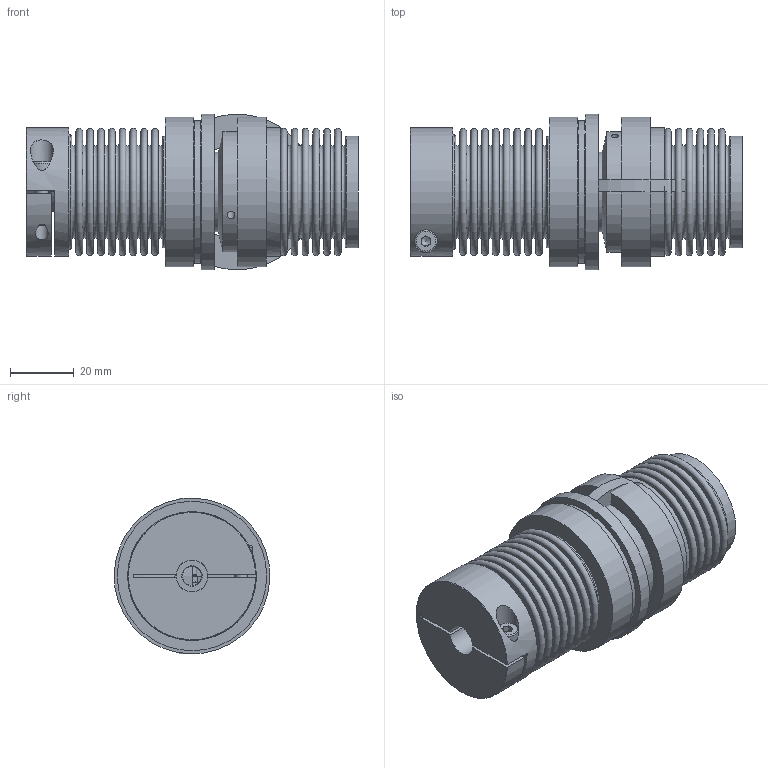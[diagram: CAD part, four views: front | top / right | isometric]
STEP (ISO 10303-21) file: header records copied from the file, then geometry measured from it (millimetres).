
FILE_DESCRIPTION( ( 'Unknown' ), '1' );
FILE_NAME( 'C:/Dokumente und Einstellungen/SKarpstein/Desktop/Korrigierte 3D Modelle/KBK-BKI-10-75.stp', 'Unknown', ( 'Unknown' ), ( 'Unknown' ), 'XStep 1.0', 'Unknown', ' ' );
FILE_SCHEMA( ( 'automotive_design' ) );
Length unit declared in the file: millimetre
Products named in the file (10): Assem1; Stellring 10; Druckring 10; KBK L-I-10 Grundkörper; din_en_24017_m3x12; Konusbuchse KBK 10; Flansch BK10; BL100_Standard_0; KN10_Standard_D10; Socket Head Cap Screw_DIN_DIN 912 M4 x 16 --- 16N_4
Bounding box: 104.43 x 48.99 x 49 mm (x, y, z)
Volume: 102922.4 mm3; surface area: 104395.4 mm2
Topology: 21 solids, 21 shells, 516 faces, 1042 edges, 665 vertices
Faces by surface type: plane 259, cylinder 96, torus 89, cone 72
Full cylindrical faces by diameter (mm): 2.459 x16, 3 x5, 3.1 x8, 4 x4, 4.2 x2, 4.57 x5, 6 x4, 7 x2, 7.2 x2, 10 x2, 16 x2, 19 x2, 20 x4, 24 x4, 25 x4, 26 x2, 29.993 x2, 32 x2, 34.343 x2, 35.143 x2, 35.2 x2, 36 x2, 38 x2, 40 x2, 40.5 x2, 45 x2, 47 x2, 49 x2
Entity records: 5746 total; most frequent: CARTESIAN_POINT 1178, DIRECTION 991, ORIENTED_EDGE 648, AXIS2_PLACEMENT_3D 458, EDGE_LOOP 404, EDGE_CURVE 324, FACE_OUTER_BOUND 311, VERTEX_POINT 263
